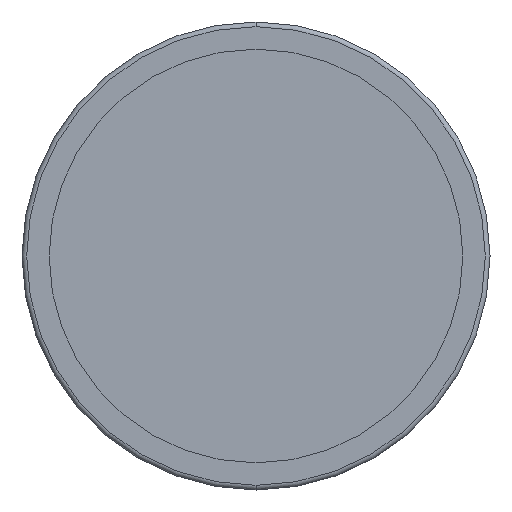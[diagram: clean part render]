
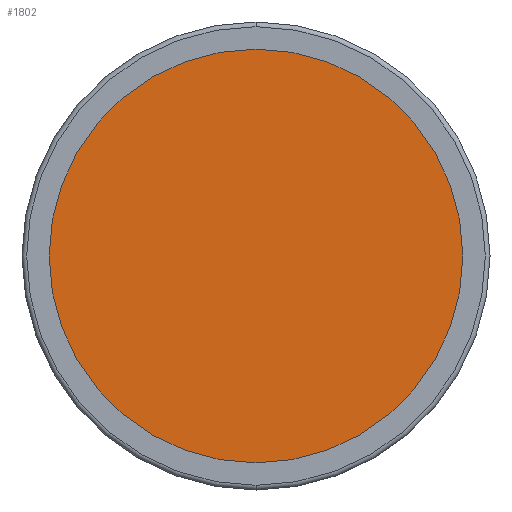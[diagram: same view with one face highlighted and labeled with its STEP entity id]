
A CAD part, front view. The second image highlights one B-rep face of the part: STEP entity #1802.
In plain terms, the highlighted planar face has unit normal (0, -1, 0).
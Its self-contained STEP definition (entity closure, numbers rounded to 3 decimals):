
#42 = AXIS2_PLACEMENT_3D ( 'NONE', #1541, #548, #586 ) ;
#91 = AXIS2_PLACEMENT_3D ( 'NONE', #1609, #2643, #876 ) ;
#108 = CARTESIAN_POINT ( 'NONE',  ( 0., -3., -43.75 ) ) ;
#208 = VERTEX_POINT ( 'NONE', #108 ) ;
#548 = DIRECTION ( 'NONE',  ( 0., 1., 0. ) ) ;
#563 = CARTESIAN_POINT ( 'NONE',  ( 0., -3., 0. ) ) ;
#584 = DIRECTION ( 'NONE',  ( 0., 1., 0. ) ) ;
#586 = DIRECTION ( 'NONE',  ( 0., 0., 1. ) ) ;
#684 = ORIENTED_EDGE ( 'NONE', *, *, #2085, .F. ) ;
#842 = DIRECTION ( 'NONE',  ( 0., 0., 1. ) ) ;
#876 = DIRECTION ( 'NONE',  ( 0., 0., -1. ) ) ;
#1239 = EDGE_LOOP ( 'NONE', ( #684, #2446 ) ) ;
#1474 = AXIS2_PLACEMENT_3D ( 'NONE', #563, #584, #842 ) ;
#1496 = CIRCLE ( 'NONE', #42, 43.75 ) ;
#1510 = VERTEX_POINT ( 'NONE', #2114 ) ;
#1541 = CARTESIAN_POINT ( 'NONE',  ( 0., -3., 0. ) ) ;
#1563 = FACE_OUTER_BOUND ( 'NONE', #1239, .T. ) ;
#1584 = CIRCLE ( 'NONE', #1474, 43.75 ) ;
#1609 = CARTESIAN_POINT ( 'NONE',  ( -43.75, -3., 0. ) ) ;
#1802 = ADVANCED_FACE ( 'NONE', ( #1563 ), #2019, .T. ) ;
#2019 = PLANE ( 'NONE',  #91 ) ;
#2085 = EDGE_CURVE ( 'NONE', #1510, #208, #1496, .T. ) ;
#2114 = CARTESIAN_POINT ( 'NONE',  ( 0., -3., 43.75 ) ) ;
#2381 = EDGE_CURVE ( 'NONE', #208, #1510, #1584, .T. ) ;
#2446 = ORIENTED_EDGE ( 'NONE', *, *, #2381, .F. ) ;
#2643 = DIRECTION ( 'NONE',  ( 0., -1., 0. ) ) ;
